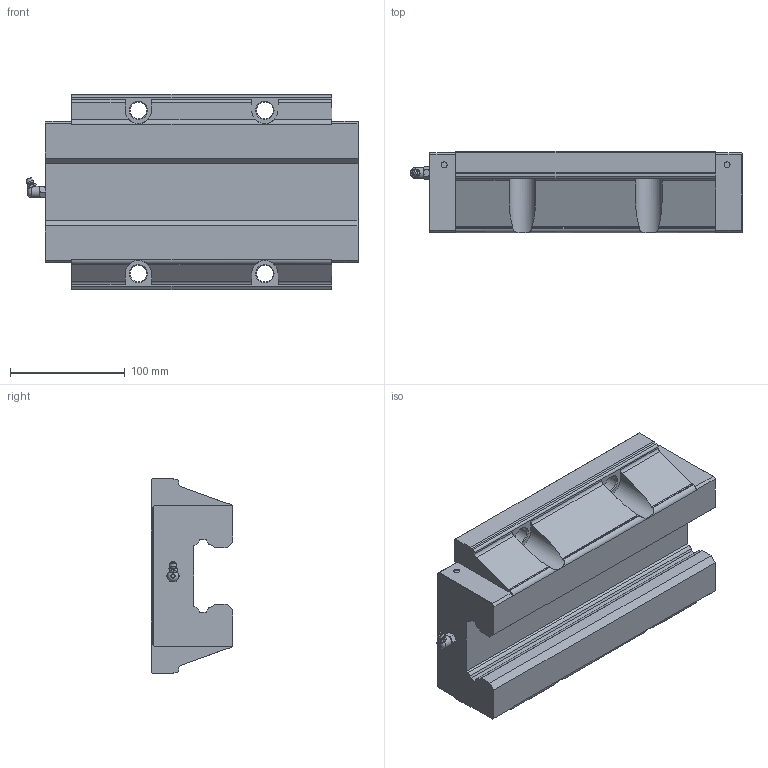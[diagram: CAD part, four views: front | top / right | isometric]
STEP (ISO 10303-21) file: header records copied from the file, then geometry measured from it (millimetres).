
FILE_DESCRIPTION(/* description */ ('STEP AP203'),/* implementation_level */ '2;1');
FILE_NAME(/* name */ 'SHS65LC1SS(GK) BLOCK(B-PT1_81)',/* time_stamp */ '2024-05-14T04:36:49+02:00',/* author */ ('License CC BY-ND 4.0'),/* organization */ ('CADENAS'),/* preprocessor_version */ 'ST-DEVELOPER v19.3',/* originating_system */ 'PARTsolutions',/* authorisation */ ' ');
FILE_SCHEMA (('CONFIG_CONTROL_DESIGN'));
Length unit declared in the file: millimetre
Products named in the file (3): SHS65LC1SS(GK) BLOCK(B-PT1/81); SHS65LCSSB-PT1/81 Slide25-55; B-PT1/8-SHS_grease_nipple_joint
Assembly tree (2 placements, depth 2):
  SHS65LC1SS(GK) BLOCK(B-PT1/81)
    SHS65LCSSB-PT1/81 Slide25-55
    B-PT1/8-SHS_grease_nipple_joint
Bounding box: 288.7 x 71 x 170 mm (x, y, z)
Volume: 2237723.5 mm3; surface area: 165400.1 mm2
Topology: 2 solids, 2 shells, 165 faces, 450 edges, 295 vertices
Faces by surface type: plane 105, cylinder 35, cone 20, torus 3, sphere 2
Full cylindrical faces by diameter (mm): 5.2 x4, 9.6 x1, 14.5 x4
Entity records: 5088 total; most frequent: CARTESIAN_POINT 1055, ORIENTED_EDGE 798, DIRECTION 794, EDGE_CURVE 399, VERTEX_POINT 280, AXIS2_PLACEMENT_3D 266, LINE 262, VECTOR 262
